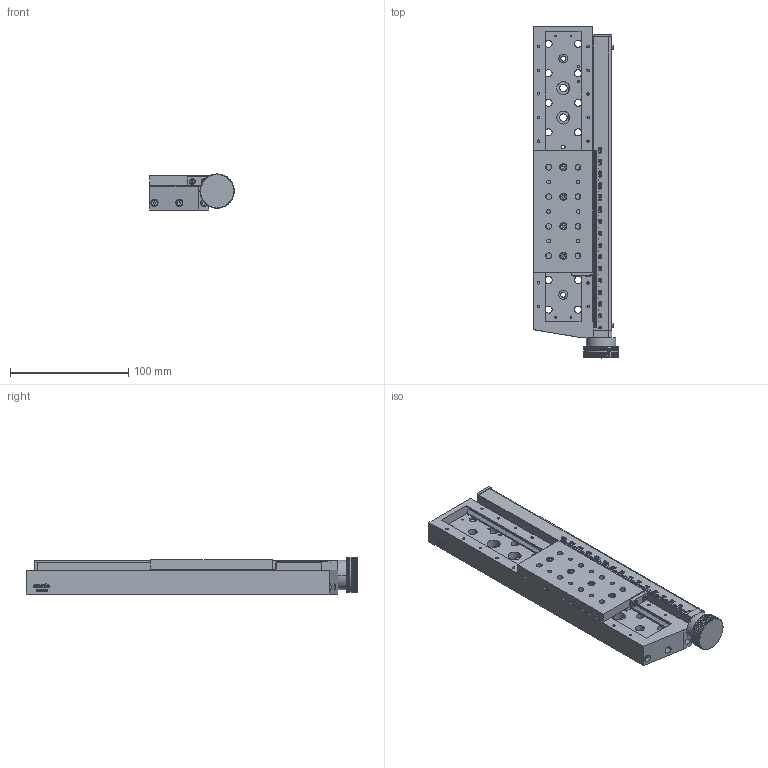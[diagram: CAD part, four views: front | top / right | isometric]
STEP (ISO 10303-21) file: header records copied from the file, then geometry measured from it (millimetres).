
FILE_DESCRIPTION (( 'STEP AP203' ), '1' );
FILE_NAME ('7T175-150.STEP', '2007-11-26T09:47:07', ( 'STANDA' ), ( '' ), 'SwSTEP 2.0', 'SolidWorks 2003240', '' );
FILE_SCHEMA (( 'CONFIG_CONTROL_DESIGN' ));
Products named in the file (1): 7T175-150
Bounding box: 71.5 x 281 x 30.5 mm (x, y, z)
Volume: 332215.1 mm3; surface area: 98353.9 mm2
Topology: 1 solids, 49 shells, 2813 faces, 7502 edges, 4876 vertices
Faces by surface type: plane 1575, bspline 538, cylinder 523, cone 177
Entity records: 96823 total; most frequent: CARTESIAN_POINT 30516, ORIENTED_EDGE 14792, DIRECTION 11728, EDGE_CURVE 7396, VERTEX_POINT 4872, VECTOR 4516, LINE 4516, AXIS2_PLACEMENT_3D 3606
